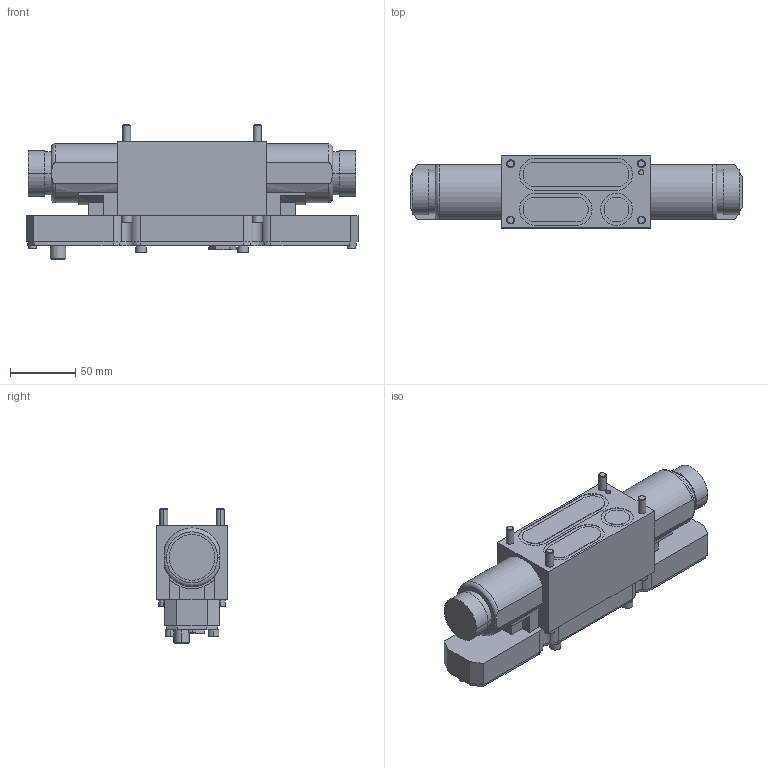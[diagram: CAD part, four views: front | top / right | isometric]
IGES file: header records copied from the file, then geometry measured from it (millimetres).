
Start section:  PTC IGES file: R414002867\r414002867.iges
Global section: file name: R414002867\r414002867.iges; native system: Creo Parametric by PTC Inc.; preprocessor: 2020044; author: THD3HC; organization: Unknown; date: 20231121.155605; units: millimetre
Bounding box: 254 x 55 x 103.5 mm (x, y, z)
Surface area: 77867.8 mm2 (no closed solid volume)
Topology: 0 solids, 0 shells, 283 faces, 1432 edges, 1432 vertices
Faces by surface type: bspline 185, revolution 98
